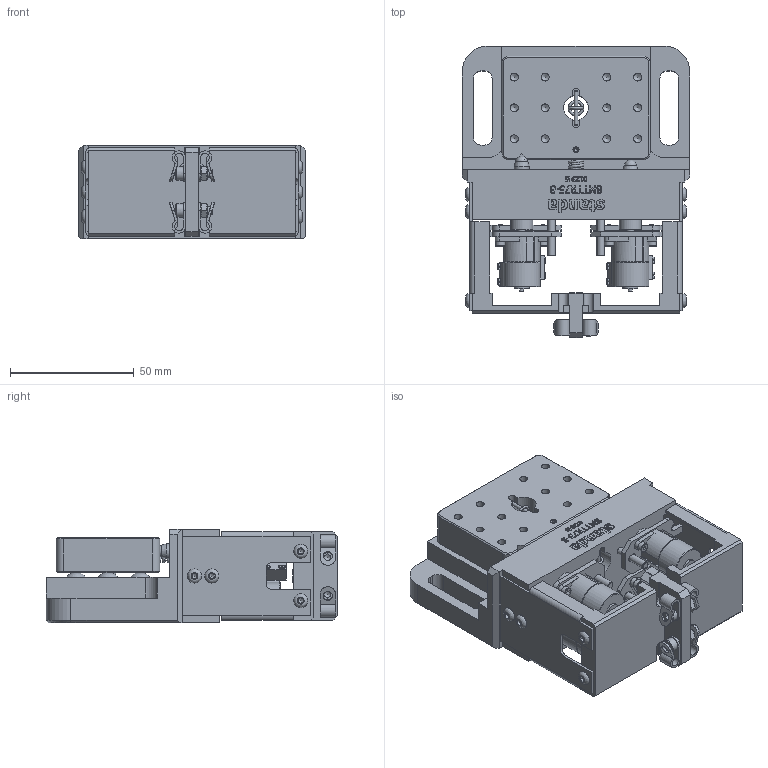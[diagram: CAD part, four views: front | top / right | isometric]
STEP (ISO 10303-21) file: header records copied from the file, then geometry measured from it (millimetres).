
FILE_DESCRIPTION(/* description */ (''),/* implementation_level */ '2;1');
FILE_NAME(/* name */ 'C:\Users\dsgn39.CENTRAS\Desktop\Internetui\8MTTR75-3\8MTTR75-3.stp',/* time_stamp */ '2021-05-28T11:24:58+03:00',/* author */ ('dsgn39'),/* organization */ (''),/* preprocessor_version */ 'ST-DEVELOPER v15.2',/* originating_system */ 'Autodesk Inventor 2014',/* authorisation */ '');
FILE_SCHEMA (('AUTOMOTIVE_DESIGN { 1 0 10303 214 3 1 1 }'));
Length unit declared in the file: millimetre
Products named in the file (2): Part2; Assembly1
Bounding box: 92 x 118 x 38 mm (x, y, z)
Volume: 197770.6 mm3; surface area: 68906.9 mm2
Topology: 6 solids, 29 shells, 1400 faces, 3612 edges, 2370 vertices
Faces by surface type: plane 805, cylinder 263, bspline 192, cone 90, torus 42, sphere 8
Full cylindrical faces by diameter (mm): 1 x16, 1.5 x7, 2 x8, 2.2 x8, 2.459 x2, 3 x23, 3.242 x12, 3.4 x1, 3.5 x8, 3.7 x6, 3.8 x8, 5.5 x2, 5.54 x1, 5.7 x8, 5.9 x4, 6 x8, 6.1 x4, 6.5 x2, 9 x4, 10 x5, 11 x2, 12.925 x4
Entity records: 43981 total; most frequent: CARTESIAN_POINT 12700, ORIENTED_EDGE 6456, DIRECTION 5824, EDGE_CURVE 3214, VERTEX_POINT 2237, LINE 1944, VECTOR 1944, AXIS2_PLACEMENT_3D 1940
